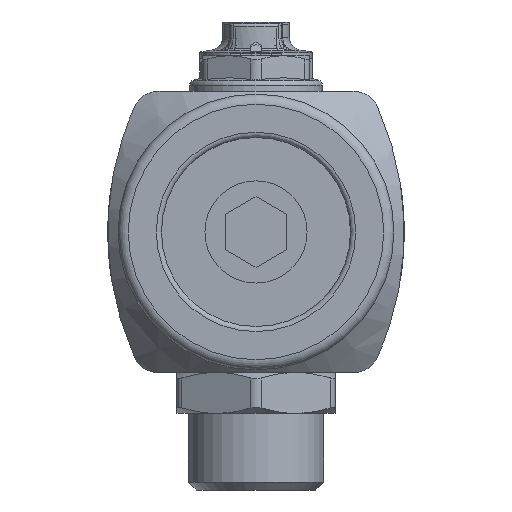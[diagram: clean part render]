
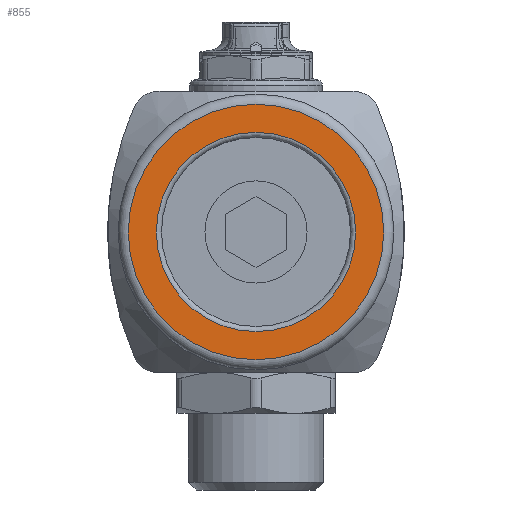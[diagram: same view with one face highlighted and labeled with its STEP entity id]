
A CAD part, front view. The second image highlights one B-rep face of the part: STEP entity #855.
In plain terms, the highlighted planar face has unit normal (0, -1, 0).
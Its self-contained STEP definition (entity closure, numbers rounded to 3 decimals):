
#855=ADVANCED_FACE('',(#8276,#8278),#8280,.F.);
#8276=FACE_BOUND('',#8277,.T.);
#8277=EDGE_LOOP('',(#13420));
#8278=FACE_BOUND('',#8279,.T.);
#8279=EDGE_LOOP('',(#13421));
#8280=PLANE('',#8281);
#8281=AXIS2_PLACEMENT_3D('',#8282,#8283,#8284);
#8282=CARTESIAN_POINT('',(0.,-254.,0.));
#8283=DIRECTION('',(0.,1.,0.));
#8284=DIRECTION('',(-1.,0.,0.));
#13420=ORIENTED_EDGE('',*,*,#17022,.F.);
#13421=ORIENTED_EDGE('',*,*,#17040,.T.);
#17022=EDGE_CURVE('',#20918,#20918,#20919,.T.);
#17040=EDGE_CURVE('',#20954,#20954,#20955,.F.);
#20918=VERTEX_POINT('',#49418);
#20919=CIRCLE('',#49419,25.);
#20954=VERTEX_POINT('',#49498);
#20955=CIRCLE('',#49499,19.5);
#49418=CARTESIAN_POINT('',(-25.,-254.,0.));
#49419=AXIS2_PLACEMENT_3D('',#49420,#49421,#49422);
#49420=CARTESIAN_POINT('',(0.,-254.,0.));
#49421=DIRECTION('',(0.,1.,0.));
#49422=DIRECTION('',(-1.,0.,0.));
#49498=CARTESIAN_POINT('',(19.5,-254.,0.));
#49499=AXIS2_PLACEMENT_3D('',#49500,#49501,#49502);
#49500=CARTESIAN_POINT('',(0.,-254.,0.));
#49501=DIRECTION('',(0.,-1.,0.));
#49502=DIRECTION('',(1.,0.,0.));
